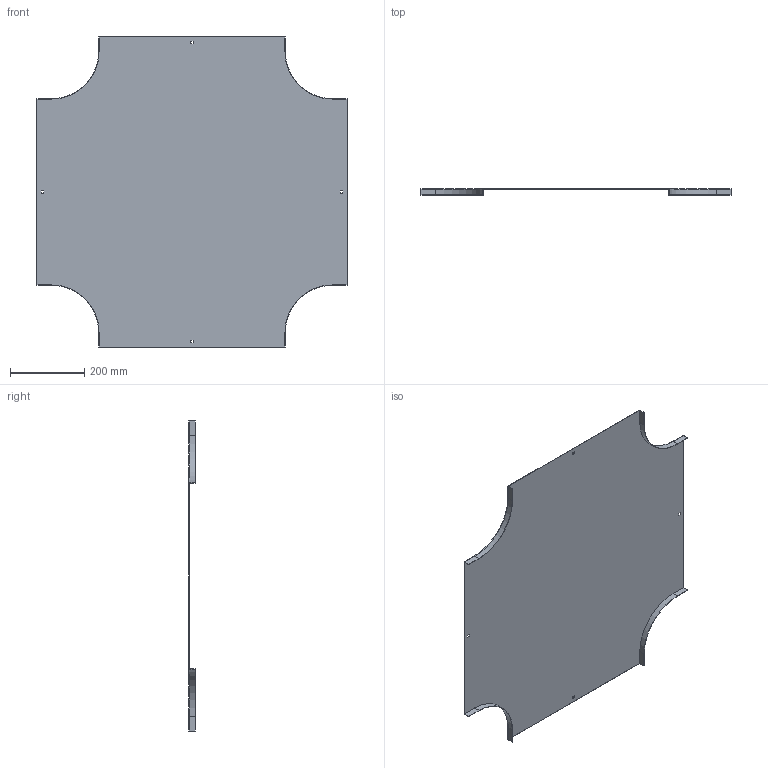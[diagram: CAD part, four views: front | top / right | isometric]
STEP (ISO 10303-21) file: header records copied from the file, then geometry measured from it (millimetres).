
FILE_DESCRIPTION (( 'STEP AP214' ), '1' );
FILE_NAME ('OC_500.step', '2025-07-16T09:10:58', ( '' ), ( '' ), 'SwSTEP 2.0', 'SolidWorks 2023', '' );
FILE_SCHEMA (( 'AUTOMOTIVE_DESIGN' ));
Length unit declared in the file: millimetre
Products named in the file (1): OC_500
Bounding box: 834 x 17 x 834 mm (x, y, z)
Volume: 616629.2 mm3; surface area: 1236610.2 mm2
Topology: 1 solids, 1 shells, 50 faces, 144 edges, 96 vertices
Faces by surface type: plane 42, cylinder 8
Entity records: 1663 total; most frequent: CARTESIAN_POINT 291, ORIENTED_EDGE 288, DIRECTION 262, EDGE_CURVE 144, VECTOR 128, LINE 128, VERTEX_POINT 96, AXIS2_PLACEMENT_3D 67
